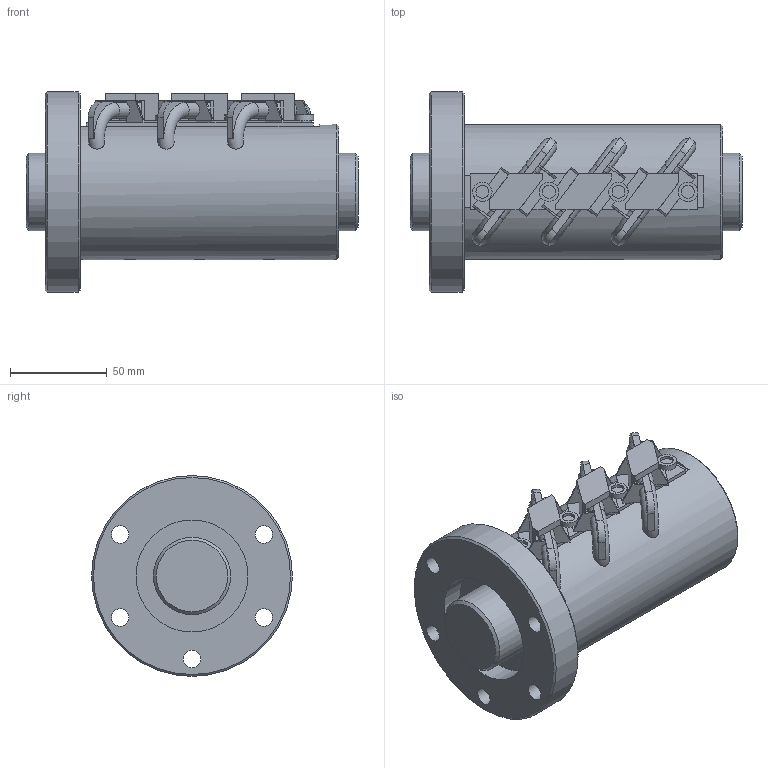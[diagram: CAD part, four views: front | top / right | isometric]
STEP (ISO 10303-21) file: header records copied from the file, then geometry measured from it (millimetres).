
FILE_DESCRIPTION(/* description */ ('STEP AP203'),/* implementation_level */ '2;1');
FILE_NAME(/* name */ 'HBN4012-7.5RRG2+172LC0(0G200)_rev',/* time_stamp */ '2024-07-04T08:17:46+02:00',/* author */ ('License CC BY-ND 4.0'),/* organization */ ('CADENAS'),/* preprocessor_version */ 'ST-DEVELOPER v19.3',/* originating_system */ 'PARTsolutions',/* authorisation */ ' ');
FILE_SCHEMA (('CONFIG_CONTROL_DESIGN'));
Length unit declared in the file: millimetre
Products named in the file (3): HBN4012-7.5RRG2+172LC0(0G200)_rev; HBN4012-7.5 RRG1+172L C0(01000) Shaft; HBN4012-7.5 RRG1+162L C0(0100) Nut
Assembly tree (2 placements, depth 2):
  HBN4012-7.5RRG2+172LC0(0G200)_rev
    HBN4012-7.5 RRG1+172L C0(01000) Shaft
    HBN4012-7.5 RRG1+162L C0(0100) Nut
Bounding box: 172 x 104 x 104 mm (x, y, z)
Volume: 680973.9 mm3; surface area: 111693.9 mm2
Topology: 2 solids, 2 shells, 251 faces, 719 edges, 456 vertices
Faces by surface type: plane 196, cylinder 38, cone 11, torus 6
Full cylindrical faces by diameter (mm): 4.917 x3, 6.667 x4, 9 x5, 10 x4, 40 x2, 58 x2, 70 x1, 104 x1
Entity records: 8069 total; most frequent: CARTESIAN_POINT 1575, ORIENTED_EDGE 1326, DIRECTION 1266, EDGE_CURVE 663, LINE 512, VECTOR 512, VERTEX_POINT 442, AXIS2_PLACEMENT_3D 377
